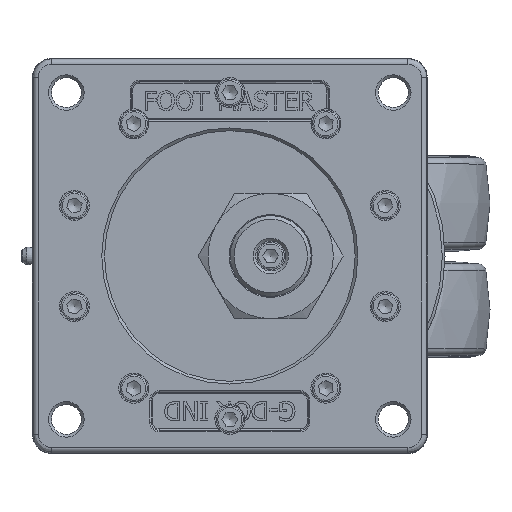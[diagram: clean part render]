
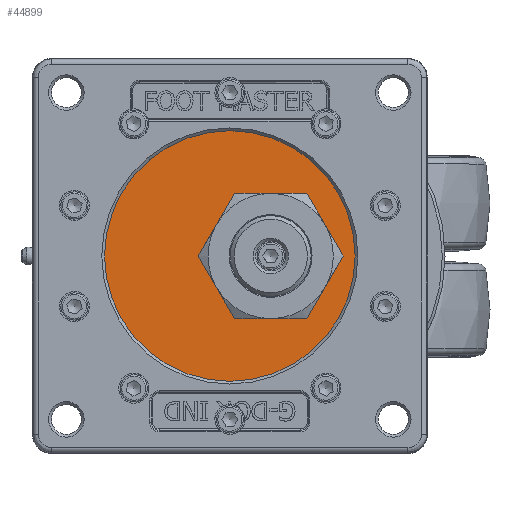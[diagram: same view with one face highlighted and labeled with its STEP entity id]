
A CAD part, top view. The second image highlights one B-rep face of the part: STEP entity #44899.
In plain terms, the highlighted planar face has unit normal (0, 0, 1).
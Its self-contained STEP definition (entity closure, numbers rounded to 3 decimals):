
#1035=LINE('',#64568,#5351);
#1036=LINE('',#64570,#5352);
#1037=LINE('',#64572,#5353);
#1038=LINE('',#64574,#5354);
#1039=LINE('',#64576,#5355);
#1040=LINE('',#64577,#5356);
#5351=VECTOR('',#50678,10.);
#5352=VECTOR('',#50679,10.);
#5353=VECTOR('',#50680,10.);
#5354=VECTOR('',#50681,10.);
#5355=VECTOR('',#50682,10.);
#5356=VECTOR('',#50683,10.);
#10866=PLANE('',#47357);
#14875=FACE_BOUND('',#17964,.T.);
#15490=FACE_OUTER_BOUND('',#17963,.T.);
#17963=EDGE_LOOP('',(#33465));
#17964=EDGE_LOOP('',(#33466,#33467,#33468,#33469,#33470,#33471));
#20446=CIRCLE('',#47358,47.);
#21558=VERTEX_POINT('',#64564);
#21559=VERTEX_POINT('',#64566);
#21560=VERTEX_POINT('',#64567);
#21561=VERTEX_POINT('',#64569);
#21562=VERTEX_POINT('',#64571);
#21563=VERTEX_POINT('',#64573);
#21564=VERTEX_POINT('',#64575);
#26149=EDGE_CURVE('',#21558,#21558,#20446,.T.);
#26150=EDGE_CURVE('',#21559,#21560,#1035,.T.);
#26151=EDGE_CURVE('',#21561,#21559,#1036,.T.);
#26152=EDGE_CURVE('',#21562,#21561,#1037,.T.);
#26153=EDGE_CURVE('',#21563,#21562,#1038,.T.);
#26154=EDGE_CURVE('',#21564,#21563,#1039,.T.);
#26155=EDGE_CURVE('',#21560,#21564,#1040,.T.);
#33465=ORIENTED_EDGE('',*,*,#26149,.T.);
#33466=ORIENTED_EDGE('',*,*,#26150,.F.);
#33467=ORIENTED_EDGE('',*,*,#26151,.F.);
#33468=ORIENTED_EDGE('',*,*,#26152,.F.);
#33469=ORIENTED_EDGE('',*,*,#26153,.F.);
#33470=ORIENTED_EDGE('',*,*,#26154,.F.);
#33471=ORIENTED_EDGE('',*,*,#26155,.F.);
#44899=ADVANCED_FACE('',(#15490,#14875),#10866,.T.);
#47357=AXIS2_PLACEMENT_3D('',#64563,#50674,#50675);
#47358=AXIS2_PLACEMENT_3D('',#64565,#50676,#50677);
#50674=DIRECTION('center_axis',(0.,0.,
1.));
#50675=DIRECTION('ref_axis',(1.,0.,0.));
#50676=DIRECTION('center_axis',(0.,0.,
1.));
#50677=DIRECTION('ref_axis',(-1.,0.,0.));
#50678=DIRECTION('',(-1.,0.,0.));
#50679=DIRECTION('',(-0.5,0.866,0.));
#50680=DIRECTION('',(0.5,0.866,0.));
#50681=DIRECTION('',(1.,0.,0.));
#50682=DIRECTION('',(0.5,-0.866,0.));
#50683=DIRECTION('',(-0.5,-0.866,0.));
#64563=CARTESIAN_POINT('Origin',(0.,0.,
-8.5));
#64564=CARTESIAN_POINT('',(0.,-47.,-8.5));
#64565=CARTESIAN_POINT('Origin',(0.,0.,
-8.5));
#64566=CARTESIAN_POINT('',(28.279,23.,-8.5));
#64567=CARTESIAN_POINT('',(1.721,23.,-8.5));
#64568=CARTESIAN_POINT('',(7.5,23.,-8.5));
#64569=CARTESIAN_POINT('',(41.558,0.,-8.5));
#64570=CARTESIAN_POINT('',(29.724,20.498,-8.5));
#64571=CARTESIAN_POINT('',(28.279,-23.,-8.5));
#64572=CARTESIAN_POINT('',(36.363,-8.998,-8.5));
#64573=CARTESIAN_POINT('',(1.721,-23.,-8.5));
#64574=CARTESIAN_POINT('',(14.14,-23.,-8.5));
#64575=CARTESIAN_POINT('',(-11.558,0.,-8.5));
#64576=CARTESIAN_POINT('',(-3.474,-14.002,-8.5));
#64577=CARTESIAN_POINT('',(-10.113,2.502,-8.5));
